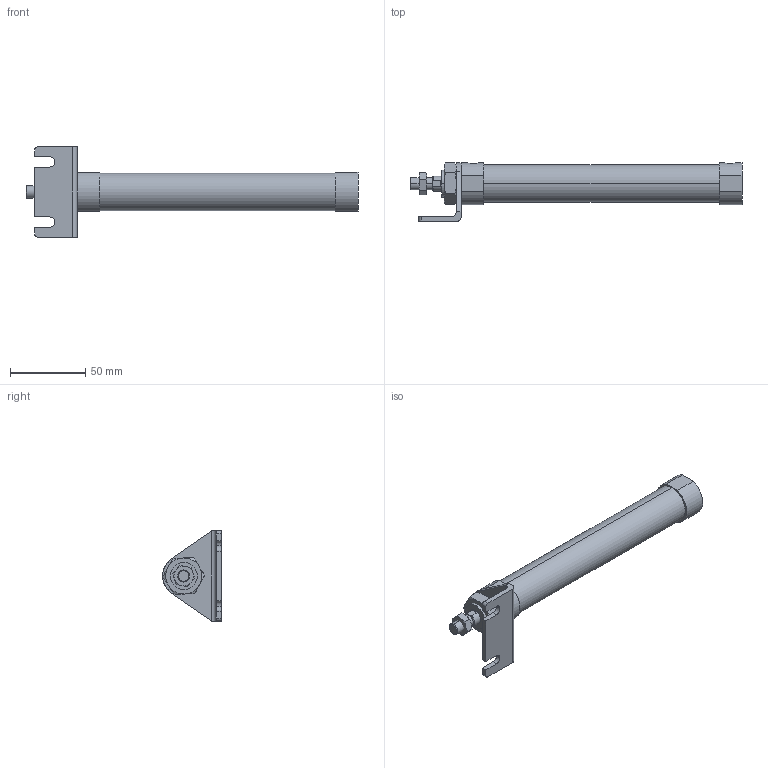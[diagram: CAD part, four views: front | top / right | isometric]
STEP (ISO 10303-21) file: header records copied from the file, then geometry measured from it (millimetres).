
FILE_DESCRIPTION (( 'STEP AP203' ), '1' );
FILE_NAME ('JGND2-20-125-L.STEP', '2016-08-04T02:32:06', ( '' ), ( '' ), 'SwSTEP 2.0', 'SolidWorks 2014', '' );
FILE_SCHEMA (( 'CONFIG_CONTROL_DESIGN' ));
Length unit declared in the file: millimetre
Products named in the file (5): J#2-20-125(P); J#2-20-L; JGND2-20-125-L
Assembly tree (4 placements, depth 2):
  JGND2-20-125-L
    J#2-20-125(P)
    (unnamed)
    (unnamed)
    J#2-20-L
Bounding box: 221 x 39 x 60 mm (x, y, z)
Volume: 109345.1 mm3; surface area: 26652.8 mm2
Topology: 4 solids, 4 shells, 111 faces, 255 edges, 160 vertices
Faces by surface type: plane 49, cylinder 34, torus 24, cone 4
Entity records: 4004 total; most frequent: CARTESIAN_POINT 989, DIRECTION 531, ORIENTED_EDGE 510, EDGE_CURVE 255, AXIS2_PLACEMENT_3D 214, VERTEX_POINT 160, EDGE_LOOP 125, ADVANCED_FACE 111
